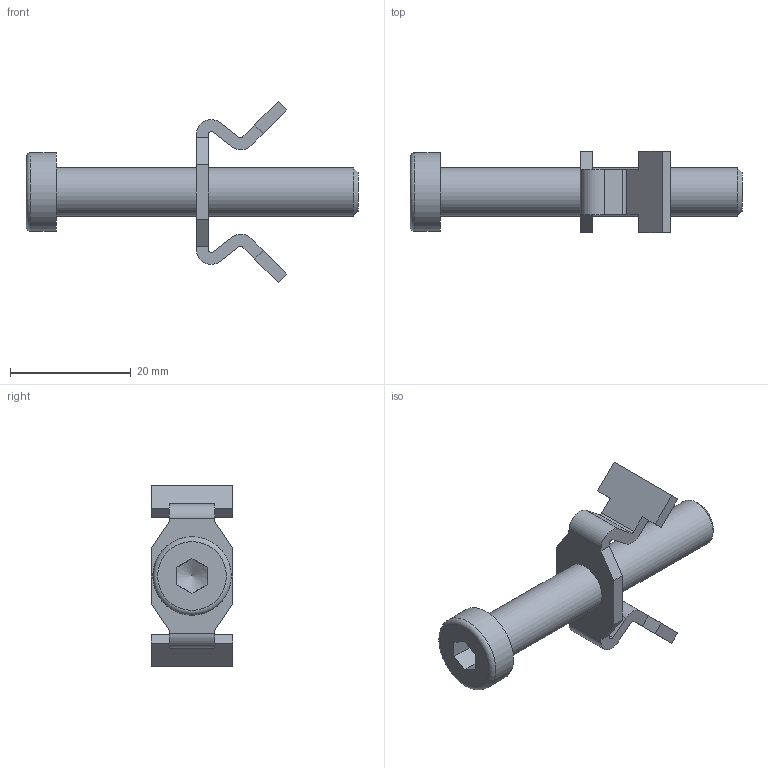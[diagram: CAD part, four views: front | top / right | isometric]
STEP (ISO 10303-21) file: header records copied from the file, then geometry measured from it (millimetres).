
FILE_DESCRIPTION((''),'2;1');
FILE_NAME('C:\Documents and Settings\Administrator\My Documents\Andys Backup Data\ANDY''S INVENTOR\INVENTOR LIBRARIES\MINITEC INVENTOR LIBRARIES\FASTENING ELEMENTS\A PACKED FILES\STEP FILES\21.1017 SCREW CONNECTION.stp','2010-06-24T08:05:19',('Administrator'),(''),'Autodesk Inventor 2009','Autodesk Inventor 2009','');
FILE_SCHEMA(('AUTOMOTIVE_DESIGN { 1 0 10303 214 1 1 1 1 }'));
Length unit declared in the file: millimetre
Products named in the file (3): 21.1017 SCREW CONNECTION; 21.1212 M8 x 50; 21.1017 ANTI-TWIST
Assembly tree (2 placements, depth 2):
  21.1017 SCREW CONNECTION
    21.1212 M8 x 50
    21.1017 ANTI-TWIST
Bounding box: 55 x 13.5 x 30 mm (x, y, z)
Volume: 4076 mm3; surface area: 3132.2 mm2
Topology: 2 solids, 2 shells, 53 faces, 141 edges, 93 vertices
Faces by surface type: plane 39, cylinder 11, cone 2, torus 1
Full cylindrical faces by diameter (mm): 8 x2, 13 x1
Entity records: 1734 total; most frequent: CARTESIAN_POINT 296, DIRECTION 268, ORIENTED_EDGE 268, EDGE_CURVE 134, VECTOR 104, LINE 104, VERTEX_POINT 92, AXIS2_PLACEMENT_3D 82
